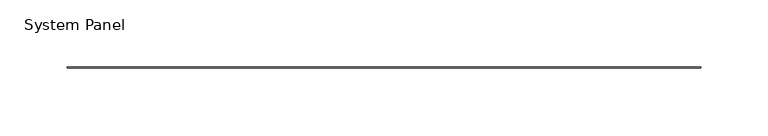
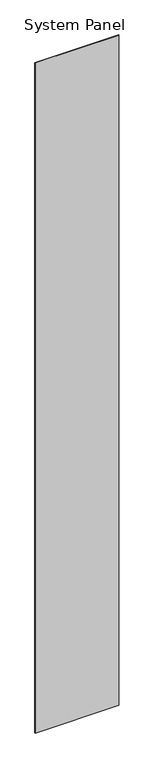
"""IFC4 building model written with IfcOpenShell, lengths in millimetres: plate geometry, System Panel : Stratco_Hiland_Interlock_Panel."""

from ifc_helpers import new_model, si_unit, origin, origin_with_axes, place, context, project, spatial, polyline, outline, extrude, source, transform, mapped, element, save


def system_panel_48c66af6(model_context):
    return source(origin(), model_context, "Body", "SweptSolid", [
        extrude(outline(polyline([(236.5000002, 24.0), (-236.5000002, 24.0), (-236.5000002, 25.0), (236.5000002, 25.0), (236.5000002, 24.0)])), origin_with_axes(), (0.0, 0.0, 1.0), 4000.0),
    ])


if __name__ == "__main__":
    model = new_model("IFC4")
    model_context = context("Model", 3, world=origin())
    ifc_project = project(units=[si_unit("LENGTHUNIT", "METRE", prefix="MILLI")], contexts=[model_context])
    site = spatial("IfcSite", under=ifc_project)
    building = spatial("IfcBuilding", under=site)
    placement = place(None, origin())
    system_panel_shape = system_panel_48c66af6(model_context)
    element("IfcPlate", 1, ObjectType="System Panel : Stratco_Hiland_Interlock_Panel", at=placement, inside=building, context=model_context, shape_type="MappedRepresentation", body=[
        mapped(system_panel_shape, transform((0.0, 0.0, 0.0), x_axis=(1.0, 0.0, 0.0), y_axis=(0.0, 1.0, 0.0), z_axis=(0.0, 0.0, 1.0))),
    ])
    save(model, "model.ifc")
